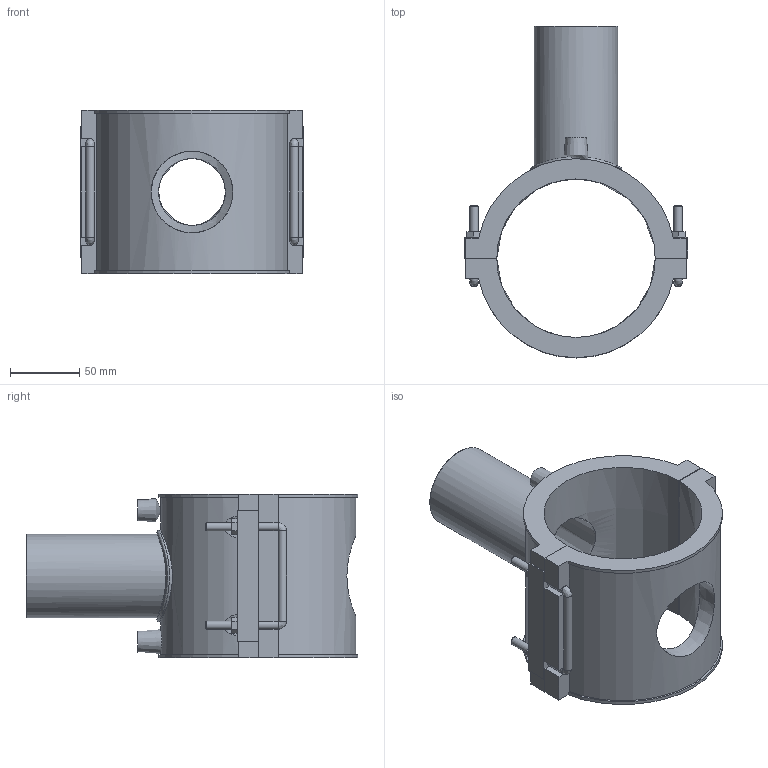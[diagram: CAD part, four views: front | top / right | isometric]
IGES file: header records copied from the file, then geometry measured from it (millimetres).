
Global section: file name: 5958BB03040020.ipt; native system: Autodesk Inventor 2019; preprocessor: unknown; author: KIM; date: 20210830.101254; units: inch
Bounding box: 161 x 238.95 x 118.11 mm (x, y, z)
Volume: 749598.1 mm3; surface area: 161792.3 mm2
Topology: 2 solids, 2 shells, 133 faces, 340 edges, 214 vertices
Faces by surface type: plane 85, cylinder 22, revolution 10, bspline 9, cone 7
Full cylindrical faces by diameter (mm): 4 x2, 6 x10, 60.1 x1, 66.11 x1
